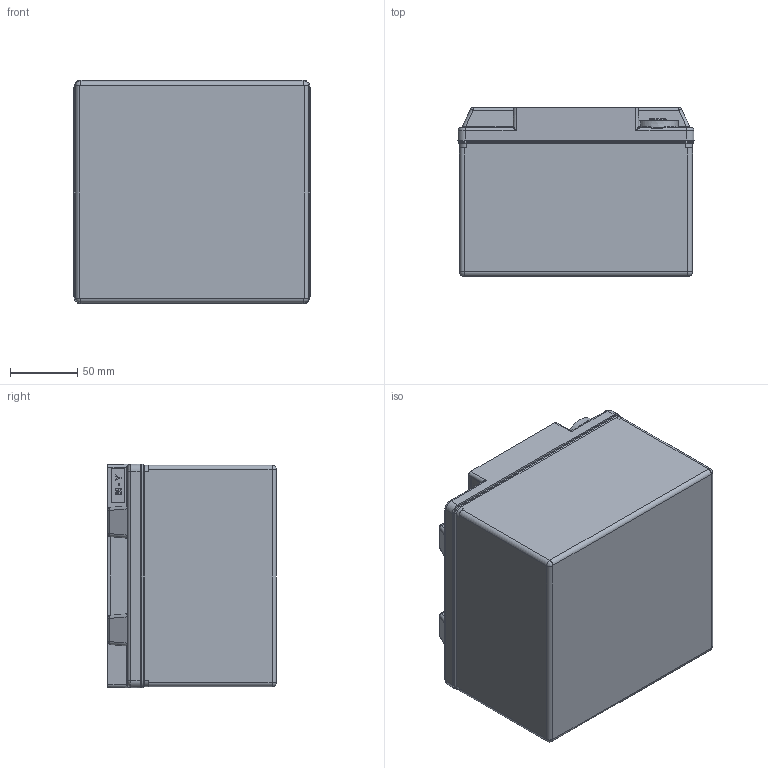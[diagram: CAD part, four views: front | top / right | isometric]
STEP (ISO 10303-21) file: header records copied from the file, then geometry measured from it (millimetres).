
FILE_DESCRIPTION (( 'STEP AP203' ), '1' );
FILE_NAME ('ODS-AGM28L.STEP', '2024-03-25T15:40:50', ( '' ), ( '' ), 'SwSTEP 2.0', 'SolidWorks 2022', '' );
FILE_SCHEMA (( 'CONFIG_CONTROL_DESIGN' ));
Length unit declared in the file: inch
Products named in the file (1): ODS-AGM28L
Bounding box: 175.01 x 125.02 x 165.99 mm (x, y, z)
Volume: 807288.6 mm3; surface area: 523308.9 mm2
Topology: 9 solids, 9 shells, 1353 faces, 3147 edges, 1767 vertices
Faces by surface type: cylinder 482, plane 394, bspline 242, torus 154, sphere 50, cone 31
Full cylindrical faces by diameter (mm): 3.81 x1, 5.08 x11, 6.35 x2, 7.62 x7, 10.668 x2, 12.7 x8, 13.208 x4, 17.78 x2, 25.273 x2
Entity records: 42388 total; most frequent: CARTESIAN_POINT 14202, ORIENTED_EDGE 5900, DIRECTION 5774, EDGE_CURVE 2950, AXIS2_PLACEMENT_3D 2223, VERTEX_POINT 1726, EDGE_LOOP 1486, FACE_OUTER_BOUND 1408
